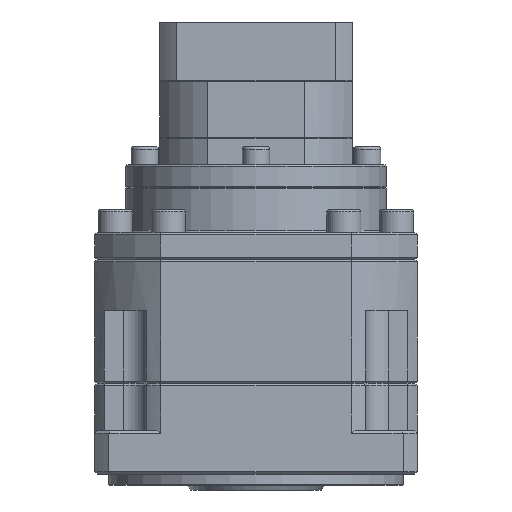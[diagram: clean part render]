
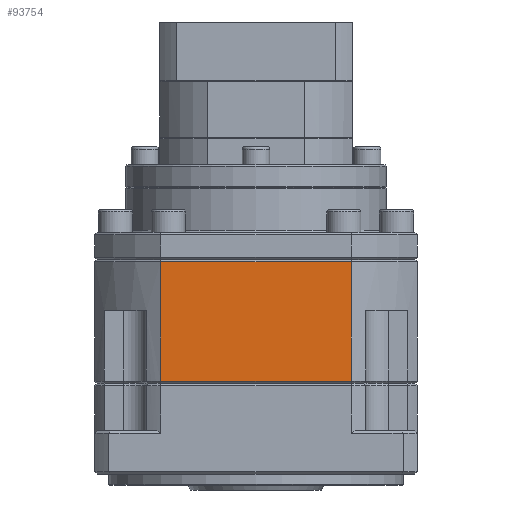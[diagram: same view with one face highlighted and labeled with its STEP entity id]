
A CAD part, front view. The second image highlights one B-rep face of the part: STEP entity #93754.
In plain terms, the highlighted planar face has unit normal (0, -1, 0).
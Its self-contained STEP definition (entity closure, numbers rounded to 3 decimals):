
#8451 = CARTESIAN_POINT ( 'NONE',  ( -96.544, 42.262, -84.905 ) ) ;
#10695 = ORIENTED_EDGE ( 'NONE', *, *, #31518, .F. ) ;
#10931 = VERTEX_POINT ( 'NONE', #137243 ) ;
#22078 = ORIENTED_EDGE ( 'NONE', *, *, #37998, .F. ) ;
#23809 = EDGE_CURVE ( 'NONE', #37340, #42518, #88549, .T. ) ;
#28875 = DIRECTION ( 'NONE',  ( 0., 1., 0. ) ) ;
#31518 = EDGE_CURVE ( 'NONE', #42518, #83784, #116503, .T. ) ;
#35526 = EDGE_LOOP ( 'NONE', ( #10695, #106027, #35981, #22078 ) ) ;
#35981 = ORIENTED_EDGE ( 'NONE', *, *, #43467, .F. ) ;
#37340 = VERTEX_POINT ( 'NONE', #87668 ) ;
#37998 = EDGE_CURVE ( 'NONE', #83784, #10931, #100091, .T. ) ;
#41758 = DIRECTION ( 'NONE',  ( -1., 0., 0. ) ) ;
#42518 = VERTEX_POINT ( 'NONE', #56187 ) ;
#43467 = EDGE_CURVE ( 'NONE', #10931, #37340, #51793, .T. ) ;
#51504 = DIRECTION ( 'NONE',  ( 0., 0., -1. ) ) ;
#51793 = LINE ( 'NONE', #74895, #94681 ) ;
#55645 = VECTOR ( 'NONE', #92057, 1000. ) ;
#56187 = CARTESIAN_POINT ( 'NONE',  ( -209.559, 42.262, -85.905 ) ) ;
#74895 = CARTESIAN_POINT ( 'NONE',  ( -96.544, 42.262, -138.405 ) ) ;
#78657 = VECTOR ( 'NONE', #51504, 1000. ) ;
#83784 = VERTEX_POINT ( 'NONE', #92194 ) ;
#85985 = DIRECTION ( 'NONE',  ( 1., 0., 0. ) ) ;
#87668 = CARTESIAN_POINT ( 'NONE',  ( -209.559, 42.262, -138.405 ) ) ;
#88432 = VECTOR ( 'NONE', #85985, 1000. ) ;
#88549 = LINE ( 'NONE', #100823, #55645 ) ;
#92057 = DIRECTION ( 'NONE',  ( 0., 0., 1. ) ) ;
#92151 = PLANE ( 'NONE',  #125241 ) ;
#92194 = CARTESIAN_POINT ( 'NONE',  ( -125.529, 42.262, -85.905 ) ) ;
#93754 = ADVANCED_FACE ( 'NONE', ( #95309 ), #92151, .F. ) ;
#94681 = VECTOR ( 'NONE', #41758, 1000. ) ;
#95309 = FACE_OUTER_BOUND ( 'NONE', #35526, .T. ) ;
#100091 = LINE ( 'NONE', #114670, #78657 ) ;
#100823 = CARTESIAN_POINT ( 'NONE',  ( -209.559, 42.262, -84.905 ) ) ;
#103644 = DIRECTION ( 'NONE',  ( -1., 0., 0. ) ) ;
#106027 = ORIENTED_EDGE ( 'NONE', *, *, #23809, .F. ) ;
#114670 = CARTESIAN_POINT ( 'NONE',  ( -125.529, 42.262, -84.905 ) ) ;
#116503 = LINE ( 'NONE', #129830, #88432 ) ;
#125241 = AXIS2_PLACEMENT_3D ( 'NONE', #8451, #28875, #103644 ) ;
#129830 = CARTESIAN_POINT ( 'NONE',  ( -167.544, 42.262, -85.905 ) ) ;
#137243 = CARTESIAN_POINT ( 'NONE',  ( -125.529, 42.262, -138.405 ) ) ;
